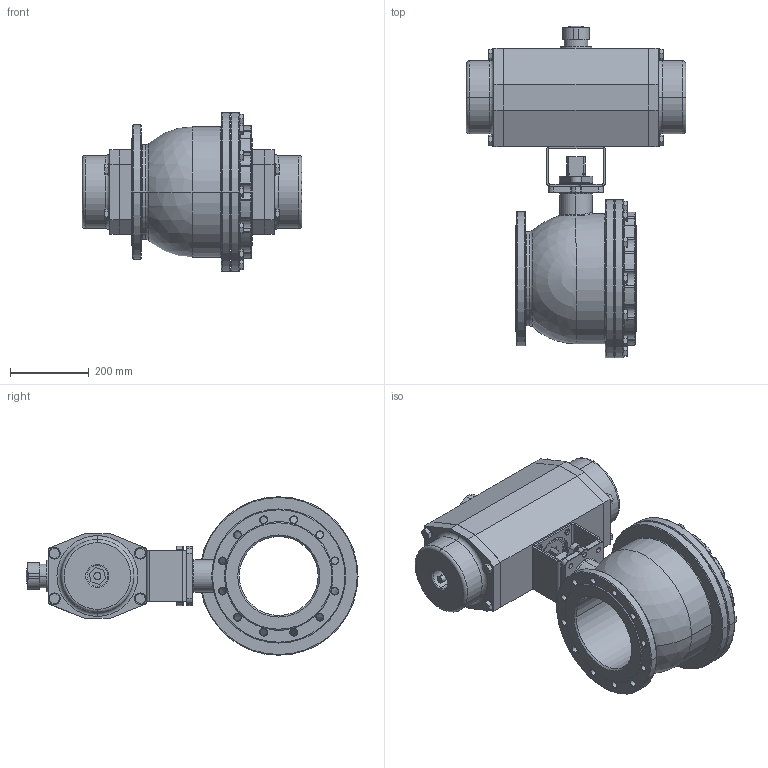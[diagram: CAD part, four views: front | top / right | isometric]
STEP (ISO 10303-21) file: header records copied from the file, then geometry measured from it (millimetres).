
FILE_DESCRIPTION (( 'STEP AP214' ), '1' );
FILE_NAME ('S15F DN200 + AP8.STEP', '2012-04-24T09:04:20', ( 'Jan' ), ( '' ), 'SwSTEP 2.0', 'SolidWorks 2011', '' );
FILE_SCHEMA (( 'AUTOMOTIVE_DESIGN' ));
Length unit declared in the file: millimetre
Products named in the file (4): YB150100f14f14-5-S15; S15F KK DN200 PN16; S15F DN200 + AP8; AP8_Default<As Machined>
Assembly tree (3 placements, depth 2):
  S15F DN200 + AP8
    S15F KK DN200 PN16
    YB150100f14f14-5-S15
    AP8_Default<As Machined>
Bounding box: 557 x 842 x 402 mm (x, y, z)
Volume: 40542892.5 mm3; surface area: 1716174.8 mm2
Topology: 14 solids, 14 shells, 869 faces, 2104 edges, 1281 vertices
Faces by surface type: plane 298, cylinder 285, torus 175, cone 106, sphere 4, bspline 1
Entity records: 27773 total; most frequent: DIRECTION 4859, CARTESIAN_POINT 4564, ORIENTED_EDGE 4144, EDGE_CURVE 2072, AXIS2_PLACEMENT_3D 1916, VERTEX_POINT 1279, CIRCLE 1042, VECTOR 1027
